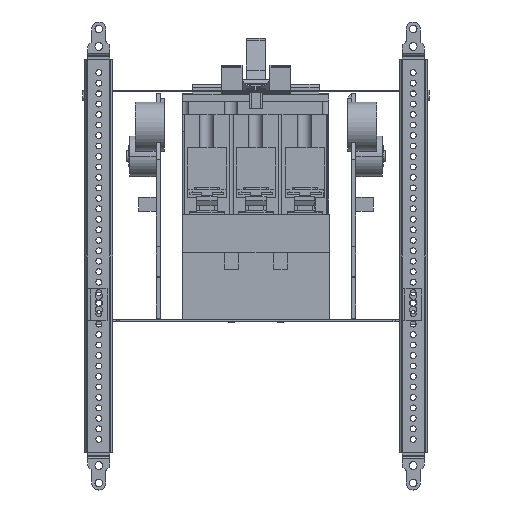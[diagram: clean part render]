
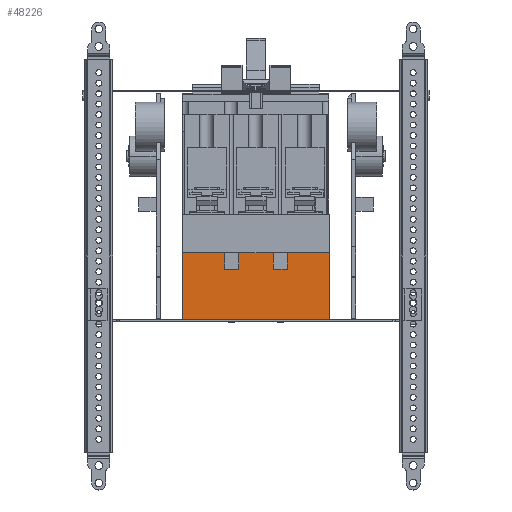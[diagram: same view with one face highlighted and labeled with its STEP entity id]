
A CAD part, left-side view. The second image highlights one B-rep face of the part: STEP entity #48226.
In plain terms, the highlighted planar face has unit normal (-1, 0, 0).
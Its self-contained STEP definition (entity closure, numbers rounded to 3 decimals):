
#45791=CARTESIAN_POINT(' ',(-117.161,55.533,-65.647));
#45792=VERTEX_POINT(' ',#45791);
#45806=CARTESIAN_POINT(' ',(-117.161,55.533,-65.647));
#45811=DIRECTION(' ',(0.,0.,1.));
#45816=VECTOR(' ',#45811,1.);
#45821=LINE('',#45806,#45816);
#45826=CARTESIAN_POINT(' ',(-117.161,55.533,-17.647));
#45827=VERTEX_POINT(' ',#45826);
#45831=EDGE_CURVE(' ',#45792,#45827,#45821,.T.);
#46621=CARTESIAN_POINT(' ',(-117.161,-49.467,-17.647));
#46622=VERTEX_POINT(' ',#46621);
#46636=CARTESIAN_POINT(' ',(-117.161,-49.467,-65.647));
#46641=DIRECTION(' ',(0.,0.,1.));
#46646=VECTOR(' ',#46641,1.);
#46651=LINE('',#46636,#46646);
#46656=CARTESIAN_POINT(' ',(-117.161,-49.467,-65.647));
#46657=VERTEX_POINT(' ',#46656);
#46661=EDGE_CURVE(' ',#46657,#46622,#46651,.T.);
#47691=CARTESIAN_POINT(' ',(-117.161,55.533,-65.647));
#47696=DIRECTION(' ',(0.,-1.,0.));
#47701=VECTOR(' ',#47696,1.);
#47706=LINE('',#47691,#47701);
#47711=EDGE_CURVE(' ',#45792,#46657,#47706,.T.);
#47866=DIRECTION(' ',(-1.,0.,0.));
#47871=CARTESIAN_POINT(' ',(-117.161,-49.467,-17.647));
#47876=DIRECTION(' ',(0.,1.,0.));
#47881=AXIS2_PLACEMENT_3D(' ',#47871,#47866,#47876);
#47886=PLANE('NONE',#47881);
#47891=CARTESIAN_POINT(' ',(-117.161,-19.467,-29.647));
#47896=DIRECTION(' ',(0.,0.,1.));
#47901=VECTOR(' ',#47896,1.);
#47906=LINE('',#47891,#47901);
#47911=CARTESIAN_POINT(' ',(-117.161,-19.467,-29.647));
#47912=VERTEX_POINT(' ',#47911);
#47916=CARTESIAN_POINT(' ',(-117.161,-19.467,-17.647));
#47917=VERTEX_POINT(' ',#47916);
#47921=EDGE_CURVE(' ',#47912,#47917,#47906,.T.);
#47926=ORIENTED_EDGE(' ',*,*,#47921,.F.);
#47931=CARTESIAN_POINT(' ',(-117.161,-9.467,-29.647));
#47936=DIRECTION(' ',(0.,-1.,0.));
#47941=VECTOR(' ',#47936,1.);
#47946=LINE('',#47931,#47941);
#47951=CARTESIAN_POINT(' ',(-117.161,-9.467,-29.647));
#47952=VERTEX_POINT(' ',#47951);
#47956=EDGE_CURVE(' ',#47952,#47912,#47946,.T.);
#47961=ORIENTED_EDGE(' ',*,*,#47956,.F.);
#47966=CARTESIAN_POINT(' ',(-117.161,-9.467,-17.647));
#47971=DIRECTION(' ',(0.,0.,-1.));
#47976=VECTOR(' ',#47971,1.);
#47981=LINE('',#47966,#47976);
#47986=CARTESIAN_POINT(' ',(-117.161,-9.467,-17.647));
#47987=VERTEX_POINT(' ',#47986);
#47991=EDGE_CURVE(' ',#47987,#47952,#47981,.T.);
#47996=ORIENTED_EDGE(' ',*,*,#47991,.F.);
#48001=CARTESIAN_POINT(' ',(-117.161,-9.467,-17.647));
#48006=DIRECTION(' ',(0.,1.,0.));
#48011=VECTOR(' ',#48006,1.);
#48016=LINE('',#48001,#48011);
#48021=CARTESIAN_POINT(' ',(-117.161,15.533,-17.647));
#48022=VERTEX_POINT(' ',#48021);
#48026=EDGE_CURVE(' ',#47987,#48022,#48016,.T.);
#48031=ORIENTED_EDGE(' ',*,*,#48026,.T.);
#48036=CARTESIAN_POINT(' ',(-117.161,15.533,-29.647));
#48041=DIRECTION(' ',(0.,0.,1.));
#48046=VECTOR(' ',#48041,1.);
#48051=LINE('',#48036,#48046);
#48056=CARTESIAN_POINT(' ',(-117.161,15.533,-29.647));
#48057=VERTEX_POINT(' ',#48056);
#48061=EDGE_CURVE(' ',#48057,#48022,#48051,.T.);
#48066=ORIENTED_EDGE(' ',*,*,#48061,.F.);
#48071=CARTESIAN_POINT(' ',(-117.161,25.533,-29.647));
#48076=DIRECTION(' ',(0.,-1.,0.));
#48081=VECTOR(' ',#48076,1.);
#48086=LINE('',#48071,#48081);
#48091=CARTESIAN_POINT(' ',(-117.161,25.533,-29.647));
#48092=VERTEX_POINT(' ',#48091);
#48096=EDGE_CURVE(' ',#48092,#48057,#48086,.T.);
#48101=ORIENTED_EDGE(' ',*,*,#48096,.F.);
#48106=CARTESIAN_POINT(' ',(-117.161,25.533,-17.647));
#48111=DIRECTION(' ',(0.,0.,-1.));
#48116=VECTOR(' ',#48111,1.);
#48121=LINE('',#48106,#48116);
#48126=CARTESIAN_POINT(' ',(-117.161,25.533,-17.647));
#48127=VERTEX_POINT(' ',#48126);
#48131=EDGE_CURVE(' ',#48127,#48092,#48121,.T.);
#48136=ORIENTED_EDGE(' ',*,*,#48131,.F.);
#48141=CARTESIAN_POINT(' ',(-117.161,55.533,-17.647));
#48146=DIRECTION(' ',(0.,-1.,0.));
#48151=VECTOR(' ',#48146,1.);
#48156=LINE('',#48141,#48151);
#48161=EDGE_CURVE(' ',#45827,#48127,#48156,.T.);
#48166=ORIENTED_EDGE(' ',*,*,#48161,.F.);
#48171=ORIENTED_EDGE(' ',*,*,#45831,.F.);
#48176=ORIENTED_EDGE(' ',*,*,#47711,.T.);
#48181=ORIENTED_EDGE(' ',*,*,#46661,.T.);
#48186=CARTESIAN_POINT(' ',(-117.161,-19.467,-17.647));
#48191=DIRECTION(' ',(0.,-1.,0.));
#48196=VECTOR(' ',#48191,1.);
#48201=LINE('',#48186,#48196);
#48206=EDGE_CURVE(' ',#47917,#46622,#48201,.T.);
#48211=ORIENTED_EDGE(' ',*,*,#48206,.F.);
#48216=EDGE_LOOP(' ',(#47926,#47961,#47996,#48031,#48066,#48101,#48136,#48166,#48171,#48176,#48181,#48211));
#48221=FACE_OUTER_BOUND(' ',#48216,.T.);
#48226=ADVANCED_FACE('NONE',(#48221),#47886,.T.);
